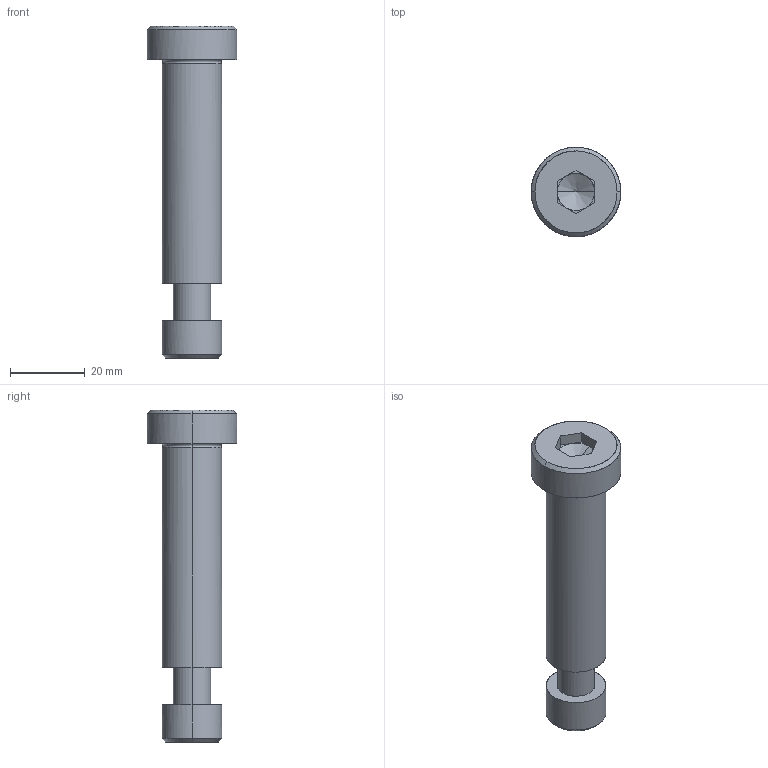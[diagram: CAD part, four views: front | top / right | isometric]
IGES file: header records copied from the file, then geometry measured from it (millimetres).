
Global section: file name: E:\UnigraphicsGraphicData\MISUMI_PRESS-PARTS\IGES\3d_sbtc16-60_05114_r00.igs; native system: NX V5.0; preprocessor: UGS NX IGES V5.0; author: MISUMI; date: 20110105.162448; units: millimetre
Bounding box: 24 x 24 x 89 mm (x, y, z)
Surface area: 7298.9 mm2 (no closed solid volume)
Topology: 0 solids, 0 shells, 52 faces, 286 edges, 282 vertices
Faces by surface type: bspline 52
